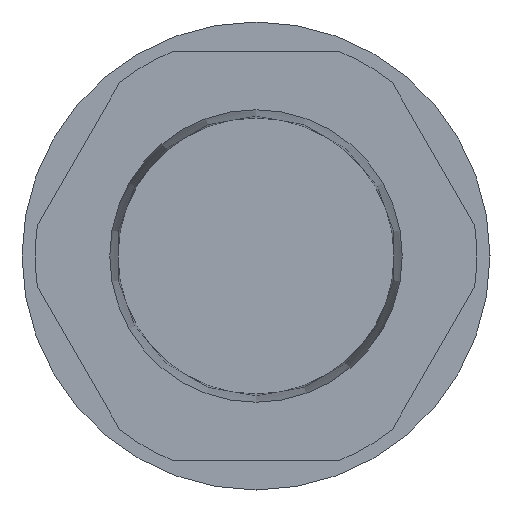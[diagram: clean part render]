
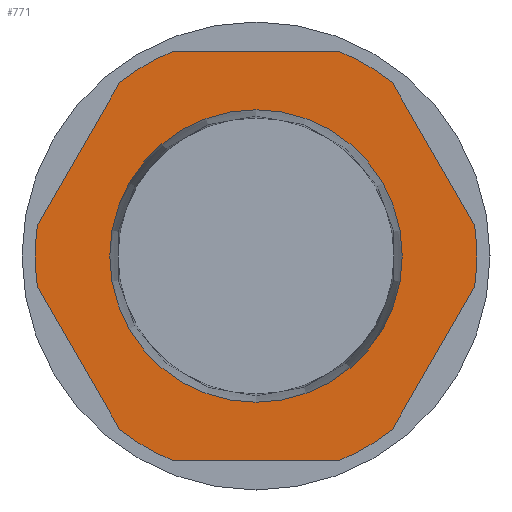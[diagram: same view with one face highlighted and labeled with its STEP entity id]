
A CAD part, left-side view. The second image highlights one B-rep face of the part: STEP entity #771.
In plain terms, the highlighted planar face has unit normal (-1, 0, 0).
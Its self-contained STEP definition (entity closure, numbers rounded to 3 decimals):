
#84=CARTESIAN_POINT('',(-21.25,0.,5.0));
#85=VERTEX_POINT('',#84);
#86=CARTESIAN_POINT('',(-21.25,0.0,0.0));
#87=DIRECTION('',(1.0,0.0,0.0));
#88=DIRECTION('',(0.0,0.0,-1.0));
#89=AXIS2_PLACEMENT_3D('',#86,#87,#88);
#90=CIRCLE('',#89,5.0);
#91=EDGE_CURVE('',#85,#85,#90,.T.);
#460=CARTESIAN_POINT('',(-21.25,2.829,7.));
#461=VERTEX_POINT('',#460);
#469=CARTESIAN_POINT('',(-21.25,4.648,5.95));
#470=VERTEX_POINT('',#469);
#477=CARTESIAN_POINT('',(-21.25,0.0,0.0));
#478=DIRECTION('',(1.0,0.0,0.0));
#479=DIRECTION('',(0.0,-1.0,0.0));
#480=AXIS2_PLACEMENT_3D('',#477,#478,#479);
#481=CIRCLE('',#480,7.55);
#482=EDGE_CURVE('',#470,#461,#481,.T.);
#492=CARTESIAN_POINT('',(-21.25,-4.648,5.95));
#493=VERTEX_POINT('',#492);
#501=CARTESIAN_POINT('',(-21.25,-2.829,7.));
#502=VERTEX_POINT('',#501);
#509=CARTESIAN_POINT('',(-21.25,0.0,0.0));
#510=DIRECTION('',(1.0,0.0,0.0));
#511=DIRECTION('',(0.0,-1.0,0.0));
#512=AXIS2_PLACEMENT_3D('',#509,#510,#511);
#513=CIRCLE('',#512,7.55);
#514=EDGE_CURVE('',#502,#493,#513,.T.);
#524=CARTESIAN_POINT('',(-21.25,7.477,-1.05));
#525=VERTEX_POINT('',#524);
#532=CARTESIAN_POINT('',(-21.25,7.477,1.05));
#533=VERTEX_POINT('',#532);
#534=CARTESIAN_POINT('',(-21.25,0.0,0.0));
#535=DIRECTION('',(1.0,0.0,0.0));
#536=DIRECTION('',(0.0,-1.0,0.0));
#537=AXIS2_PLACEMENT_3D('',#534,#535,#536);
#538=CIRCLE('',#537,7.55);
#539=EDGE_CURVE('',#525,#533,#538,.T.);
#556=CARTESIAN_POINT('',(-21.25,-7.477,-1.05));
#557=VERTEX_POINT('',#556);
#565=CARTESIAN_POINT('',(-21.25,-7.477,1.05));
#566=VERTEX_POINT('',#565);
#573=CARTESIAN_POINT('',(-21.25,0.0,0.0));
#574=DIRECTION('',(1.0,0.0,0.0));
#575=DIRECTION('',(0.0,-1.0,0.0));
#576=AXIS2_PLACEMENT_3D('',#573,#574,#575);
#577=CIRCLE('',#576,7.55);
#578=EDGE_CURVE('',#566,#557,#577,.T.);
#588=CARTESIAN_POINT('',(-21.25,2.829,-7.));
#589=VERTEX_POINT('',#588);
#596=CARTESIAN_POINT('',(-21.25,4.648,-5.95));
#597=VERTEX_POINT('',#596);
#598=CARTESIAN_POINT('',(-21.25,0.0,0.0));
#599=DIRECTION('',(1.0,0.0,0.0));
#600=DIRECTION('',(0.0,-1.0,0.0));
#601=AXIS2_PLACEMENT_3D('',#598,#599,#600);
#602=CIRCLE('',#601,7.55);
#603=EDGE_CURVE('',#589,#597,#602,.T.);
#620=CARTESIAN_POINT('',(-21.25,-2.829,-7.));
#621=VERTEX_POINT('',#620);
#629=CARTESIAN_POINT('',(-21.25,-4.648,-5.95));
#630=VERTEX_POINT('',#629);
#637=CARTESIAN_POINT('',(-21.25,0.0,0.0));
#638=DIRECTION('',(1.0,0.0,0.0));
#639=DIRECTION('',(0.0,-1.0,0.0));
#640=AXIS2_PLACEMENT_3D('',#637,#638,#639);
#641=CIRCLE('',#640,7.55);
#642=EDGE_CURVE('',#630,#621,#641,.T.);
#653=CARTESIAN_POINT('',(-21.25,-2.829,-7.));
#654=DIRECTION('',(0.0,1.0,0.0));
#655=VECTOR('',#654,5.658);
#656=LINE('',#653,#655);
#657=EDGE_CURVE('',#621,#589,#656,.T.);
#672=CARTESIAN_POINT('',(-21.25,-7.477,-1.05));
#673=DIRECTION('',(0.0,0.5,-0.866));
#674=VECTOR('',#673,5.658);
#675=LINE('',#672,#674);
#676=EDGE_CURVE('',#557,#630,#675,.T.);
#687=CARTESIAN_POINT('',(-21.25,4.648,-5.95));
#688=DIRECTION('',(0.0,0.5,0.866));
#689=VECTOR('',#688,5.658);
#690=LINE('',#687,#689);
#691=EDGE_CURVE('',#597,#525,#690,.T.);
#706=CARTESIAN_POINT('',(-21.25,-4.648,5.95));
#707=DIRECTION('',(0.0,-0.5,-0.866));
#708=VECTOR('',#707,5.658);
#709=LINE('',#706,#708);
#710=EDGE_CURVE('',#493,#566,#709,.T.);
#723=CARTESIAN_POINT('',(-21.25,2.829,7.));
#724=DIRECTION('',(0.0,-1.0,0.0));
#725=VECTOR('',#724,5.658);
#726=LINE('',#723,#725);
#727=EDGE_CURVE('',#461,#502,#726,.T.);
#738=CARTESIAN_POINT('',(-21.25,7.477,1.05));
#739=DIRECTION('',(0.0,-0.5,0.866));
#740=VECTOR('',#739,5.658);
#741=LINE('',#738,#740);
#742=EDGE_CURVE('',#533,#470,#741,.T.);
#749=CARTESIAN_POINT('',(-21.25,0.,0.));
#750=DIRECTION('',(1.0,0.0,0.0));
#751=DIRECTION('',(0.0,0.0,-1.0));
#752=AXIS2_PLACEMENT_3D('',#749,#750,#751);
#753=PLANE('',#752);
#754=ORIENTED_EDGE('',*,*,#642,.F.);
#755=ORIENTED_EDGE('',*,*,#676,.F.);
#756=ORIENTED_EDGE('',*,*,#578,.F.);
#757=ORIENTED_EDGE('',*,*,#710,.F.);
#758=ORIENTED_EDGE('',*,*,#514,.F.);
#759=ORIENTED_EDGE('',*,*,#727,.F.);
#760=ORIENTED_EDGE('',*,*,#482,.F.);
#761=ORIENTED_EDGE('',*,*,#742,.F.);
#762=ORIENTED_EDGE('',*,*,#539,.F.);
#763=ORIENTED_EDGE('',*,*,#691,.F.);
#764=ORIENTED_EDGE('',*,*,#603,.F.);
#765=ORIENTED_EDGE('',*,*,#657,.F.);
#766=EDGE_LOOP('',(#754,#755,#756,#757,#758,#759,#760,#761,#762,#763,#764,#765));
#767=FACE_OUTER_BOUND('',#766,.T.);
#768=ORIENTED_EDGE('',*,*,#91,.T.);
#769=EDGE_LOOP('',(#768));
#770=FACE_BOUND('',#769,.T.);
#771=ADVANCED_FACE('',(#767,#770),#753,.F.);
